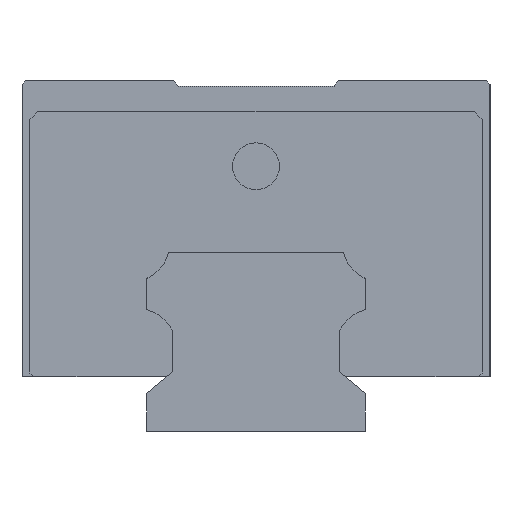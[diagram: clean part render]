
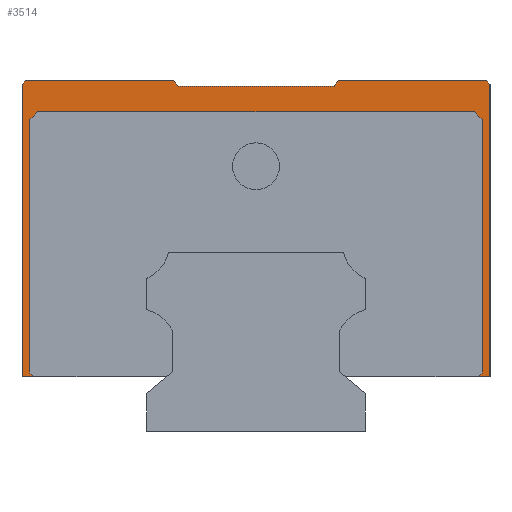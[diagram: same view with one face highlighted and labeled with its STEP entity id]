
A CAD part, left-side view. The second image highlights one B-rep face of the part: STEP entity #3514.
In plain terms, the highlighted planar face has unit normal (-1, 0, 0).
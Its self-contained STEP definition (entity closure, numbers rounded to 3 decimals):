
#62 = LINE ( 'NONE', #985, #3740 ) ;
#75 = EDGE_CURVE ( 'NONE', #5544, #409, #1097, .T. ) ;
#78 = LINE ( 'NONE', #1888, #3939 ) ;
#94 = DIRECTION ( 'NONE',  ( 0., 0.643, 0.766 ) ) ;
#150 = ORIENTED_EDGE ( 'NONE', *, *, #835, .F. ) ;
#158 = DIRECTION ( 'NONE',  ( 0., 0., -1. ) ) ;
#181 = LINE ( 'NONE', #3846, #5419 ) ;
#182 = CARTESIAN_POINT ( 'NONE',  ( -34.65, 30., 7. ) ) ;
#198 = AXIS2_PLACEMENT_3D ( 'NONE', #5319, #1231, #3033 ) ;
#203 = VECTOR ( 'NONE', #3270, 1000. ) ;
#241 = VECTOR ( 'NONE', #2954, 1000. ) ;
#329 = VERTEX_POINT ( 'NONE', #1774 ) ;
#409 = VERTEX_POINT ( 'NONE', #2083 ) ;
#490 = EDGE_CURVE ( 'NONE', #5654, #1259, #3746, .T. ) ;
#598 = VERTEX_POINT ( 'NONE', #4932 ) ;
#608 = ORIENTED_EDGE ( 'NONE', *, *, #5014, .T. ) ;
#615 = EDGE_CURVE ( 'NONE', #4116, #5373, #3560, .T. ) ;
#634 = CARTESIAN_POINT ( 'NONE',  ( -34.65, -30., 44.5 ) ) ;
#650 = ORIENTED_EDGE ( 'NONE', *, *, #1372, .T. ) ;
#687 = DIRECTION ( 'NONE',  ( 0., -1., 0. ) ) ;
#803 = EDGE_CURVE ( 'NONE', #4133, #1789, #1105, .T. ) ;
#835 = EDGE_CURVE ( 'NONE', #4269, #5654, #181, .T. ) ;
#843 = CARTESIAN_POINT ( 'NONE',  ( -34.65, -28., 41. ) ) ;
#856 = DIRECTION ( 'NONE',  ( 0., 1., 0. ) ) ;
#985 = CARTESIAN_POINT ( 'NONE',  ( -34.65, 10., 44.25 ) ) ;
#1000 = CARTESIAN_POINT ( 'NONE',  ( -34.65, -28.5, 7. ) ) ;
#1026 = VECTOR ( 'NONE', #158, 1000. ) ;
#1055 = EDGE_CURVE ( 'NONE', #4133, #2596, #5072, .T. ) ;
#1057 = VECTOR ( 'NONE', #5071, 1000. ) ;
#1097 = LINE ( 'NONE', #4198, #1057 ) ;
#1105 = LINE ( 'NONE', #2554, #4762 ) ;
#1132 = CARTESIAN_POINT ( 'NONE',  ( -34.65, 11.769, 7. ) ) ;
#1137 = DIRECTION ( 'NONE',  ( 0., 0., -1. ) ) ;
#1217 = CARTESIAN_POINT ( 'NONE',  ( -34.65, 29., 7.5 ) ) ;
#1226 = ORIENTED_EDGE ( 'NONE', *, *, #3027, .T. ) ;
#1231 = DIRECTION ( 'NONE',  ( 1., 0., 0. ) ) ;
#1259 = VERTEX_POINT ( 'NONE', #1000 ) ;
#1320 = CARTESIAN_POINT ( 'NONE',  ( -34.65, 30., 45. ) ) ;
#1347 = DIRECTION ( 'NONE',  ( 0., -1., 0. ) ) ;
#1372 = EDGE_CURVE ( 'NONE', #409, #598, #2388, .T. ) ;
#1378 = LINE ( 'NONE', #843, #1532 ) ;
#1400 = VECTOR ( 'NONE', #5095, 1000. ) ;
#1440 = CARTESIAN_POINT ( 'NONE',  ( -34.65, -10.629, 45. ) ) ;
#1506 = DIRECTION ( 'NONE',  ( 0., -1., 0. ) ) ;
#1528 = LINE ( 'NONE', #3709, #1026 ) ;
#1532 = VECTOR ( 'NONE', #3594, 1000. ) ;
#1549 = ORIENTED_EDGE ( 'NONE', *, *, #2176, .F. ) ;
#1774 = CARTESIAN_POINT ( 'NONE',  ( -34.65, 28.5, 7. ) ) ;
#1789 = VERTEX_POINT ( 'NONE', #3283 ) ;
#1884 = ORIENTED_EDGE ( 'NONE', *, *, #75, .T. ) ;
#1888 = CARTESIAN_POINT ( 'NONE',  ( -34.65, -29., 7.5 ) ) ;
#1900 = CARTESIAN_POINT ( 'NONE',  ( -34.65, 29.5, 45. ) ) ;
#2007 = CARTESIAN_POINT ( 'NONE',  ( -34.65, -30., 7. ) ) ;
#2020 = ORIENTED_EDGE ( 'NONE', *, *, #803, .F. ) ;
#2068 = VERTEX_POINT ( 'NONE', #5516 ) ;
#2079 = LINE ( 'NONE', #182, #5141 ) ;
#2083 = CARTESIAN_POINT ( 'NONE',  ( -34.65, 28., 41. ) ) ;
#2165 = LINE ( 'NONE', #5682, #5606 ) ;
#2176 = EDGE_CURVE ( 'NONE', #4721, #2596, #2079, .T. ) ;
#2181 = CARTESIAN_POINT ( 'NONE',  ( -34.65, 30., 7. ) ) ;
#2211 = VECTOR ( 'NONE', #1506, 1000. ) ;
#2244 = VECTOR ( 'NONE', #1347, 1000. ) ;
#2268 = CARTESIAN_POINT ( 'NONE',  ( -34.65, 28.5, 7. ) ) ;
#2337 = VECTOR ( 'NONE', #4658, 1000. ) ;
#2338 = CARTESIAN_POINT ( 'NONE',  ( -34.65, -10.629, 45. ) ) ;
#2374 = DIRECTION ( 'NONE',  ( 0., 0.707, -0.707 ) ) ;
#2388 = LINE ( 'NONE', #5527, #2211 ) ;
#2404 = LINE ( 'NONE', #1132, #241 ) ;
#2470 = DIRECTION ( 'NONE',  ( 0., 0.707, 0.707 ) ) ;
#2486 = EDGE_CURVE ( 'NONE', #5303, #1789, #62, .T. ) ;
#2554 = CARTESIAN_POINT ( 'NONE',  ( -34.65, 30., 45. ) ) ;
#2576 = EDGE_CURVE ( 'NONE', #329, #4721, #2404, .T. ) ;
#2592 = ORIENTED_EDGE ( 'NONE', *, *, #2576, .F. ) ;
#2596 = VERTEX_POINT ( 'NONE', #5186 ) ;
#2721 = EDGE_CURVE ( 'NONE', #2068, #5303, #2165, .T. ) ;
#2744 = VERTEX_POINT ( 'NONE', #1217 ) ;
#2748 = CARTESIAN_POINT ( 'NONE',  ( -34.65, 29., 40. ) ) ;
#2816 = VECTOR ( 'NONE', #2470, 1000. ) ;
#2836 = LINE ( 'NONE', #4628, #2337 ) ;
#2879 = DIRECTION ( 'NONE',  ( 0., 0., 1. ) ) ;
#2954 = DIRECTION ( 'NONE',  ( 0., 1., 0. ) ) ;
#2976 = ORIENTED_EDGE ( 'NONE', *, *, #3586, .T. ) ;
#3027 = EDGE_CURVE ( 'NONE', #2744, #5544, #2836, .T. ) ;
#3033 = DIRECTION ( 'NONE',  ( 0., 1., 0. ) ) ;
#3262 = EDGE_CURVE ( 'NONE', #329, #2744, #3569, .T. ) ;
#3270 = DIRECTION ( 'NONE',  ( 0., 0.643, -0.766 ) ) ;
#3283 = CARTESIAN_POINT ( 'NONE',  ( -34.65, 10.629, 45. ) ) ;
#3298 = EDGE_CURVE ( 'NONE', #3653, #1259, #78, .T. ) ;
#3313 = CARTESIAN_POINT ( 'NONE',  ( -34.65, -30., 7. ) ) ;
#3316 = CARTESIAN_POINT ( 'NONE',  ( -34.65, -29., 40. ) ) ;
#3346 = VECTOR ( 'NONE', #2374, 1000. ) ;
#3419 = ORIENTED_EDGE ( 'NONE', *, *, #2721, .T. ) ;
#3448 = FACE_OUTER_BOUND ( 'NONE', #4783, .T. ) ;
#3466 = ORIENTED_EDGE ( 'NONE', *, *, #3803, .T. ) ;
#3473 = ORIENTED_EDGE ( 'NONE', *, *, #3298, .T. ) ;
#3479 = PLANE ( 'NONE',  #198 ) ;
#3514 = ADVANCED_FACE ( 'NONE', ( #3448 ), #3479, .F. ) ;
#3560 = LINE ( 'NONE', #1320, #2244 ) ;
#3569 = LINE ( 'NONE', #2268, #4778 ) ;
#3586 = EDGE_CURVE ( 'NONE', #598, #4251, #1378, .T. ) ;
#3594 = DIRECTION ( 'NONE',  ( 0., -0.707, -0.707 ) ) ;
#3653 = VERTEX_POINT ( 'NONE', #3680 ) ;
#3680 = CARTESIAN_POINT ( 'NONE',  ( -34.65, -29., 7.5 ) ) ;
#3684 = DIRECTION ( 'NONE',  ( 0., 0.707, -0.707 ) ) ;
#3709 = CARTESIAN_POINT ( 'NONE',  ( -34.65, -29., 40. ) ) ;
#3740 = VECTOR ( 'NONE', #94, 1000. ) ;
#3746 = LINE ( 'NONE', #3313, #1400 ) ;
#3803 = EDGE_CURVE ( 'NONE', #4116, #2068, #5489, .T. ) ;
#3806 = ORIENTED_EDGE ( 'NONE', *, *, #490, .F. ) ;
#3837 = ORIENTED_EDGE ( 'NONE', *, *, #1055, .T. ) ;
#3846 = CARTESIAN_POINT ( 'NONE',  ( -34.65, -30., 45. ) ) ;
#3924 = CARTESIAN_POINT ( 'NONE',  ( -34.65, -29.5, 45. ) ) ;
#3939 = VECTOR ( 'NONE', #3684, 1000. ) ;
#4116 = VERTEX_POINT ( 'NONE', #2338 ) ;
#4133 = VERTEX_POINT ( 'NONE', #1900 ) ;
#4198 = CARTESIAN_POINT ( 'NONE',  ( -34.65, 29., 40. ) ) ;
#4251 = VERTEX_POINT ( 'NONE', #3316 ) ;
#4269 = VERTEX_POINT ( 'NONE', #5678 ) ;
#4286 = ORIENTED_EDGE ( 'NONE', *, *, #615, .F. ) ;
#4628 = CARTESIAN_POINT ( 'NONE',  ( -34.65, 29., 7.5 ) ) ;
#4658 = DIRECTION ( 'NONE',  ( 0., 0., 1. ) ) ;
#4721 = VERTEX_POINT ( 'NONE', #2181 ) ;
#4762 = VECTOR ( 'NONE', #687, 1000. ) ;
#4778 = VECTOR ( 'NONE', #4915, 1000. ) ;
#4783 = EDGE_LOOP ( 'NONE', ( #2592, #4930, #1226, #1884, #650, #2976, #5324, #3473, #3806, #150, #608, #4286, #3466, #3419, #4879, #2020, #3837, #1549 ) ) ;
#4879 = ORIENTED_EDGE ( 'NONE', *, *, #2486, .T. ) ;
#4915 = DIRECTION ( 'NONE',  ( 0., 0.707, 0.707 ) ) ;
#4930 = ORIENTED_EDGE ( 'NONE', *, *, #3262, .T. ) ;
#4932 = CARTESIAN_POINT ( 'NONE',  ( -34.65, -28., 41. ) ) ;
#4954 = CARTESIAN_POINT ( 'NONE',  ( -34.65, 29.5, 45. ) ) ;
#5014 = EDGE_CURVE ( 'NONE', #4269, #5373, #5057, .T. ) ;
#5054 = EDGE_CURVE ( 'NONE', #4251, #3653, #1528, .T. ) ;
#5057 = LINE ( 'NONE', #634, #2816 ) ;
#5071 = DIRECTION ( 'NONE',  ( 0., -0.707, 0.707 ) ) ;
#5072 = LINE ( 'NONE', #4954, #3346 ) ;
#5095 = DIRECTION ( 'NONE',  ( 0., 1., 0. ) ) ;
#5141 = VECTOR ( 'NONE', #2879, 1000. ) ;
#5186 = CARTESIAN_POINT ( 'NONE',  ( -34.65, 30., 44.5 ) ) ;
#5303 = VERTEX_POINT ( 'NONE', #5593 ) ;
#5319 = CARTESIAN_POINT ( 'NONE',  ( -34.65, -30., 45. ) ) ;
#5324 = ORIENTED_EDGE ( 'NONE', *, *, #5054, .T. ) ;
#5373 = VERTEX_POINT ( 'NONE', #3924 ) ;
#5419 = VECTOR ( 'NONE', #1137, 1000. ) ;
#5489 = LINE ( 'NONE', #1440, #203 ) ;
#5516 = CARTESIAN_POINT ( 'NONE',  ( -34.65, -10., 44.25 ) ) ;
#5527 = CARTESIAN_POINT ( 'NONE',  ( -34.65, 28., 41. ) ) ;
#5544 = VERTEX_POINT ( 'NONE', #2748 ) ;
#5593 = CARTESIAN_POINT ( 'NONE',  ( -34.65, 10., 44.25 ) ) ;
#5606 = VECTOR ( 'NONE', #856, 1000. ) ;
#5654 = VERTEX_POINT ( 'NONE', #2007 ) ;
#5678 = CARTESIAN_POINT ( 'NONE',  ( -34.65, -30., 44.5 ) ) ;
#5682 = CARTESIAN_POINT ( 'NONE',  ( -34.65, -10., 44.25 ) ) ;
